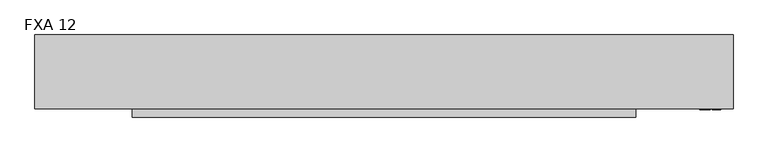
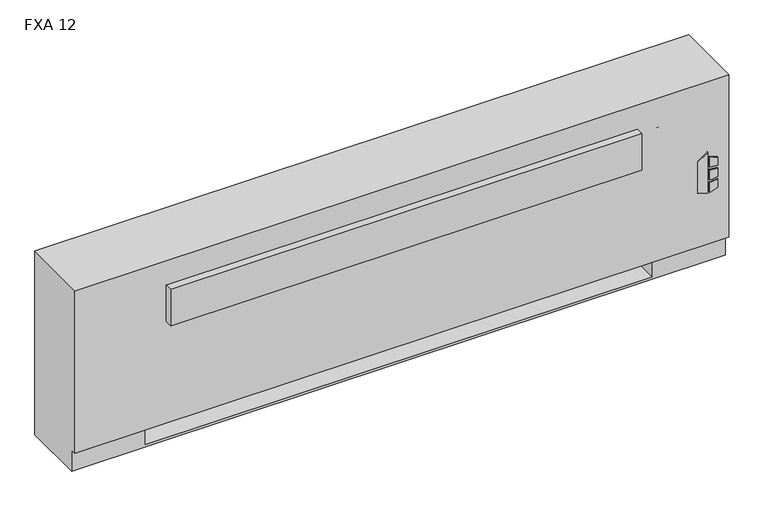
"""IFC4 building model written with IfcOpenShell, lengths in millimetres: proxy geometry, Vertical_Fan_Coil_Unit_-_FXA_-_IEC_-_2-Pipe_FS-FR_RH_2022 : FXA 12."""

from ifc_helpers import new_model, si_unit, point, frame, frame_2d, origin, place, context, project, spatial, polyline, circle_curve, trimmed, segment, composite_curve, outline, extrude, source, transform, mapped, element, save
from ifc_brep_helpers import plane_surface, revolved_surface, advanced_brep


def fxa_12_c79f4add(model_context):
    return source(origin(), model_context, "Body", "SolidModel", [
        extrude(outline(polyline([(263.9480703, 1128.7868862), (254.0, 1160.9602728), (396.1709244, 1160.9602728), (373.1489183, 1128.7868862), (263.9480703, 1128.7868862)])), frame((0.0, 12.7, 0.0), z_axis=(0.0, 1.0, 0.0), x_axis=(0.0, 0.0, 1.0)), (0.0, 0.0, 1.0), 3.175),
        extrude(outline(polyline([(342.9473557, 1167.7186058), (339.7449632, 1193.8), (368.9738042, 1193.8), (377.0382193, 1167.7186058), (342.9473557, 1167.7186058)])), frame((0.0, 12.7, 0.0), z_axis=(0.0, 1.0, 0.0), x_axis=(0.0, 0.0, 1.0)), (0.0, 0.0, 1.0), 3.175),
        extrude(outline(polyline([(291.0838288, 1193.8), (287.4183279, 1167.7186058), (254.0, 1167.7186058), (262.6342372, 1193.8), (291.0838288, 1193.8)])), frame((0.0, 12.7, 0.0), z_axis=(0.0, 1.0, 0.0), x_axis=(0.0, 0.0, 1.0)), (0.0, 0.0, 1.0), 3.175),
        extrude(outline(polyline([(330.3989903, 1193.8), (332.6808166, 1167.7186058), (296.7432681, 1167.7186058), (299.4845331, 1193.8), (330.3989903, 1193.8)])), frame((0.0, 12.7, 0.0), z_axis=(0.0, 1.0, 0.0), x_axis=(0.0, 0.0, 1.0)), (0.0, 0.0, 1.0), 3.175),
        extrude(outline(polyline([(-806.45, 81.534), (-806.45, 223.266), (-685.8, 223.266), (-685.8, 81.534), (-806.45, 81.534)])), frame((0.0, 0.0, 327.025), z_axis=(0.0, 0.0, 1.0), x_axis=(1.0, 0.0, 0.0)), (0.0, 0.0, 1.0), 260.35),
        extrude(outline(composite_curve([segment(trimmed(circle_curve(frame_2d((1054.1, 130.175)), 9.525), [point((1044.575, 130.175))], [point((1063.625, 130.175))], False, "CARTESIAN"), True, "CONTINUOUS"), segment(trimmed(circle_curve(frame_2d((1054.1, 130.175)), 9.525), [point((1063.625, 130.175))], [point((1044.575, 130.175))], False, "CARTESIAN"), True, "CONTINUOUS")], self_intersect=False)), frame((0.0, 0.0, 101.6), z_axis=(0.0, 0.0, 1.0), x_axis=(1.0, 0.0, 0.0)), (0.0, 0.0, 1.0), 25.4),
        extrude(outline(polyline([(1155.7, 196.85), (1155.7, 63.5), (990.6, 63.5), (990.6, 196.85), (1155.7, 196.85)])), frame((0.0, 0.0, 127.0), z_axis=(0.0, 0.0, 1.0), x_axis=(1.0, 0.0, 0.0)), (0.0, 0.0, 1.0), 50.8),
        extrude(outline(polyline([(930.275, -9.525), (-625.475, -9.525), (-625.475, 15.875), (930.275, 15.875), (930.275, -9.525)])), frame((0.0, 0.0, 428.625), z_axis=(0.0, 0.0, 1.0), x_axis=(1.0, 0.0, 0.0)), (0.0, 0.0, 1.0), 127.0),
        extrude(outline(composite_curve([segment(trimmed(circle_curve(frame_2d((93.1926, 485.5972)), 7.9375), [point((93.1926, 493.5347))], [point((93.1926, 477.6597))], False, "CARTESIAN"), True, "CONTINUOUS"), segment(trimmed(circle_curve(frame_2d((93.1926, 485.5972)), 7.9375), [point((93.1926, 477.6597))], [point((93.1926, 493.5347))], False, "CARTESIAN"), True, "CONTINUOUS")], self_intersect=False)), frame((990.6, 0.0, 0.0), z_axis=(1.0, 0.0, 0.0), x_axis=(0.0, 1.0, 0.0)), (0.0, 0.0, 1.0), 50.8),
        extrude(outline(composite_curve([segment(trimmed(circle_curve(frame_2d((141.3002, 458.9526)), 7.9375), [point((141.3002, 466.8901))], [point((141.3002, 451.0151))], False, "CARTESIAN"), True, "CONTINUOUS"), segment(trimmed(circle_curve(frame_2d((141.3002, 458.9526)), 7.9375), [point((141.3002, 451.0151))], [point((141.3002, 466.8901))], False, "CARTESIAN"), True, "CONTINUOUS")], self_intersect=False)), frame((990.6, 0.0, 0.0), z_axis=(1.0, 0.0, 0.0), x_axis=(0.0, 1.0, 0.0)), (0.0, 0.0, 1.0), 50.8),
        advanced_brep(
        [(1231.9, 244.475, 641.35), (-927.1, 244.475, 641.35), (-927.1, 15.875, 641.35), (1231.9, 15.875, 641.35), (-927.1, 244.475, 0.0), (1231.9, 244.475, 0.0), (1231.9, 34.925, 0.0), (-927.1, 34.925, 0.0), (990.6, 244.475, 73.025), (1219.2, 244.475, 73.025), (1219.2, 244.475, 628.65), (990.6, 244.475, 628.65), (990.6, 244.475, 414.8650565), (1019.175, 244.475, 414.8650565), (1019.175, 244.475, 385.2349435), (990.6, 244.475, 385.2349435), (990.6, 244.475, 287.3375), (1019.175, 244.475, 287.3375), (1019.175, 244.475, 258.7625), (990.6, 244.475, 258.7625), (990.6, 244.475, 141.2875), (1019.175, 244.475, 141.2875), (1019.175, 244.475, 112.7125), (990.6, 244.475, 112.7125), (-685.8, 244.475, 628.65), (-914.4, 244.475, 628.65), (-914.4, 244.475, 73.025), (-685.8, 244.475, 73.025), (-685.8, 244.475, 112.7125), (-714.375, 244.475, 112.7125), (-714.375, 244.475, 141.2875), (-685.8, 244.475, 141.2875), (-685.8, 244.475, 258.7625), (-714.375, 244.475, 258.7625), (-714.375, 244.475, 287.3375), (-685.8, 244.475, 287.3375), (-685.8, 244.475, 385.2349435), (-714.375, 244.475, 385.2349435), (-714.375, 244.475, 414.8650565), (-685.8, 244.475, 414.8650565), (1008.8626, 244.475, 127.0), (997.7374, 244.475, 127.0), (1008.8626, 244.475, 400.05), (997.7374, 244.475, 400.05), (1008.8626, 244.475, 273.05), (997.7374, 244.475, 273.05), (-692.9374, 244.475, 127.0), (-704.0626, 244.475, 127.0), (-692.9374, 244.475, 273.05), (-704.0626, 244.475, 273.05), (-692.9374, 244.475, 400.05), (-704.0626, 244.475, 400.05), (-927.1, 34.925, 73.025), (-927.1, 15.875, 73.025), (1231.9, 15.875, 73.025), (1231.9, 34.925, 73.025), (-685.8, 34.925, 73.025), (-685.8, 219.075, 73.025), (990.6, 219.075, 73.025), (990.6, 34.925, 73.025), (990.6, 34.925, 6.35), (-685.8, 34.925, 6.35), (990.6, 41.275, 628.65), (1219.2, 41.275, 628.65), (1219.2, 41.275, 73.025), (990.6, 41.275, 73.025), (-685.8, 41.275, 628.65), (-685.8, 41.275, 73.025), (-914.4, 41.275, 73.025), (-914.4, 41.275, 628.65), (990.6, 219.075, 73.025), (990.6, 238.125, 112.7125), (990.6, 238.125, 141.2875), (990.6, 238.125, 258.7625), (990.6, 238.125, 287.3375), (990.6, 238.125, 385.2349435), (990.6, 238.125, 414.8650565), (-685.8, 219.075, 73.025), (-685.8, 238.125, 414.8650565), (-685.8, 238.125, 385.2349435), (-685.8, 238.125, 287.3375), (-685.8, 238.125, 258.7625), (-685.8, 238.125, 141.2875), (-685.8, 238.125, 112.7125), (-685.8, 219.075, 6.35), (990.6, 219.075, 6.35), (1019.175, 238.125, 112.7125), (1019.175, 238.125, 141.2875), (997.7374, 238.125, 127.0), (1008.8626, 238.125, 127.0), (1019.175, 238.125, 258.7625), (1019.175, 238.125, 287.3375), (997.7374, 238.125, 273.05), (1008.8626, 238.125, 273.05), (1019.175, 238.125, 385.2349435), (1019.175, 238.125, 414.8650565), (997.7374, 238.125, 400.05), (1008.8626, 238.125, 400.05), (-714.375, 238.125, 141.2875), (-714.375, 238.125, 112.7125), (-704.0626, 238.125, 127.0), (-692.9374, 238.125, 127.0), (-714.375, 238.125, 287.3375), (-714.375, 238.125, 258.7625), (-704.0626, 238.125, 273.05), (-692.9374, 238.125, 273.05), (-714.375, 238.125, 414.8650565), (-714.375, 238.125, 385.2349435), (-704.0626, 238.125, 400.05), (-692.9374, 238.125, 400.05)],
        [
            (0, 1),
            (1, 2),
            (2, 3),
            (3, 0),
            (4, 5),
            (5, 6),
            (6, 7),
            (7, 4),
            (0, 5),
            (4, 1),
            (8, 9),
            (9, 10),
            (10, 11),
            (11, 12),
            (12, 13),
            (13, 14),
            (14, 15),
            (15, 16),
            (16, 17),
            (17, 18),
            (18, 19),
            (19, 20),
            (20, 21),
            (21, 22),
            (22, 23),
            (23, 8),
            (24, 25),
            (25, 26),
            (26, 27),
            (27, 28),
            (28, 29),
            (29, 30),
            (30, 31),
            (31, 32),
            (32, 33),
            (33, 34),
            (34, 35),
            (35, 36),
            (36, 37),
            (37, 38),
            (38, 39),
            (39, 24),
            (40, 41, circle_curve(frame((1003.3, 244.475, 127.0), z_axis=(0.0, -1.0, 0.0), x_axis=(-1.0, 0.0, 0.0)), 5.5626)),
            (41, 40, circle_curve(frame((1003.3, 244.475, 127.0), z_axis=(0.0, -1.0, 0.0), x_axis=(-1.0, 0.0, 0.0)), 5.5626)),
            (42, 43, circle_curve(frame((1003.3, 244.475, 400.05), z_axis=(0.0, -1.0, 0.0), x_axis=(-1.0, 0.0, 0.0)), 5.5626)),
            (43, 42, circle_curve(frame((1003.3, 244.475, 400.05), z_axis=(0.0, -1.0, 0.0), x_axis=(-1.0, 0.0, 0.0)), 5.5626)),
            (44, 45, circle_curve(frame((1003.3, 244.475, 273.05), z_axis=(0.0, -1.0, 0.0), x_axis=(-1.0, 0.0, 0.0)), 5.5626)),
            (45, 44, circle_curve(frame((1003.3, 244.475, 273.05), z_axis=(0.0, -1.0, 0.0), x_axis=(-1.0, 0.0, 0.0)), 5.5626)),
            (46, 47, circle_curve(frame((-698.5, 244.475, 127.0), z_axis=(0.0, -1.0, 0.0), x_axis=(-1.0, 0.0, 0.0)), 5.5626)),
            (47, 46, circle_curve(frame((-698.5, 244.475, 127.0), z_axis=(0.0, -1.0, 0.0), x_axis=(-1.0, 0.0, 0.0)), 5.5626)),
            (48, 49, circle_curve(frame((-698.5, 244.475, 273.05), z_axis=(0.0, -1.0, 0.0), x_axis=(-1.0, 0.0, 0.0)), 5.5626)),
            (49, 48, circle_curve(frame((-698.5, 244.475, 273.05), z_axis=(0.0, -1.0, 0.0), x_axis=(-1.0, 0.0, 0.0)), 5.5626)),
            (50, 51, circle_curve(frame((-698.5, 244.475, 400.05), z_axis=(0.0, -1.0, 0.0), x_axis=(-1.0, 0.0, 0.0)), 5.5626)),
            (51, 50, circle_curve(frame((-698.5, 244.475, 400.05), z_axis=(0.0, -1.0, 0.0), x_axis=(-1.0, 0.0, 0.0)), 5.5626)),
            (7, 52),
            (52, 53),
            (53, 2),
            (53, 54),
            (54, 3),
            (54, 55),
            (55, 6),
            (52, 56),
            (56, 57),
            (57, 58),
            (58, 59),
            (59, 55),
            (59, 60),
            (60, 61),
            (61, 56),
            (62, 63),
            (63, 64),
            (64, 65),
            (65, 62),
            (66, 67),
            (67, 68),
            (68, 69),
            (69, 66),
            (65, 70),
            (70, 8),
            (23, 71),
            (71, 72),
            (72, 20),
            (19, 73),
            (73, 74),
            (74, 16),
            (15, 75),
            (75, 76),
            (76, 12),
            (11, 62),
            (64, 9),
            (63, 10),
            (69, 25),
            (24, 66),
            (68, 26),
            (67, 77),
            (77, 27),
            (39, 78),
            (78, 79),
            (79, 36),
            (35, 80),
            (80, 81),
            (81, 32),
            (31, 82),
            (82, 83),
            (83, 28),
            (57, 84),
            (84, 85),
            (85, 58),
            (85, 60),
            (84, 61),
            (71, 86),
            (86, 87),
            (87, 72),
            (88, 89, circle_curve(frame((1003.3, 238.125, 127.0), z_axis=(0.0, 1.0, 0.0), x_axis=(-1.0, 0.0, 0.0)), 5.5626)),
            (89, 88, circle_curve(frame((1003.3, 238.125, 127.0), z_axis=(0.0, 1.0, 0.0), x_axis=(-1.0, 0.0, 0.0)), 5.5626)),
            (73, 90),
            (90, 91),
            (91, 74),
            (92, 93, circle_curve(frame((1003.3, 238.125, 273.05), z_axis=(0.0, 1.0, 0.0), x_axis=(-1.0, 0.0, 0.0)), 5.5626)),
            (93, 92, circle_curve(frame((1003.3, 238.125, 273.05), z_axis=(0.0, 1.0, 0.0), x_axis=(-1.0, 0.0, 0.0)), 5.5626)),
            (75, 94),
            (94, 95),
            (95, 76),
            (96, 97, circle_curve(frame((1003.3, 238.125, 400.05), z_axis=(0.0, 1.0, 0.0), x_axis=(-1.0, 0.0, 0.0)), 5.5626)),
            (97, 96, circle_curve(frame((1003.3, 238.125, 400.05), z_axis=(0.0, 1.0, 0.0), x_axis=(-1.0, 0.0, 0.0)), 5.5626)),
            (98, 99),
            (99, 83),
            (82, 98),
            (100, 101, circle_curve(frame((-698.5, 238.125, 127.0), z_axis=(0.0, 1.0, 0.0), x_axis=(-1.0, 0.0, 0.0)), 5.5626)),
            (101, 100, circle_curve(frame((-698.5, 238.125, 127.0), z_axis=(0.0, 1.0, 0.0), x_axis=(-1.0, 0.0, 0.0)), 5.5626)),
            (102, 103),
            (103, 81),
            (80, 102),
            (104, 105, circle_curve(frame((-698.5, 238.125, 273.05), z_axis=(0.0, 1.0, 0.0), x_axis=(-1.0, 0.0, 0.0)), 5.5626)),
            (105, 104, circle_curve(frame((-698.5, 238.125, 273.05), z_axis=(0.0, 1.0, 0.0), x_axis=(-1.0, 0.0, 0.0)), 5.5626)),
            (106, 107),
            (107, 79),
            (78, 106),
            (108, 109, circle_curve(frame((-698.5, 238.125, 400.05), z_axis=(0.0, 1.0, 0.0), x_axis=(-1.0, 0.0, 0.0)), 5.5626)),
            (109, 108, circle_curve(frame((-698.5, 238.125, 400.05), z_axis=(0.0, 1.0, 0.0), x_axis=(-1.0, 0.0, 0.0)), 5.5626)),
            (87, 21),
            (86, 22),
            (91, 17),
            (90, 18),
            (95, 13),
            (94, 14),
            (30, 98),
            (99, 29),
            (34, 102),
            (103, 33),
            (38, 106),
            (107, 37),
            (88, 41),
            (40, 89),
            (96, 43),
            (42, 97),
            (92, 45),
            (44, 93),
            (100, 47),
            (46, 101),
            (104, 49),
            (48, 105),
            (108, 51),
            (50, 109),
        ],
        [
            plane_surface(frame((-927.1, 244.475, 641.35), z_axis=(0.0, 0.0, 1.0), x_axis=(-1.0, 0.0, 0.0))),
            plane_surface(frame((-927.1, 244.475, 0.0), z_axis=(0.0, 0.0, -1.0), x_axis=(1.0, 0.0, 0.0))),
            plane_surface(frame((1231.9, 244.475, 641.35), z_axis=(0.0, 1.0, 0.0), x_axis=(0.0, 0.0, -1.0))),
            plane_surface(frame((-927.1, 244.475, 641.35), z_axis=(-1.0, 0.0, 0.0), x_axis=(0.0, 0.0, -1.0))),
            plane_surface(frame((-927.1, 15.875, 641.35), z_axis=(0.0, -1.0, 0.0), x_axis=(0.0, 0.0, -1.0))),
            plane_surface(frame((1231.9, 15.875, 641.35), z_axis=(1.0, 0.0, 0.0), x_axis=(0.0, 0.0, -1.0))),
            plane_surface(frame((-927.1, 15.875, 73.025), z_axis=(0.0, 0.0, -1.0), x_axis=(1.0, 0.0, 0.0))),
            plane_surface(frame((-927.1, 34.925, 73.025), z_axis=(0.0, -1.0, 0.0), x_axis=(1.0, 0.0, 0.0))),
            plane_surface(frame((990.6, 41.275, 628.65), z_axis=(0.0, 1.0, 0.0), x_axis=(0.0, 0.0, -1.0))),
            plane_surface(frame((990.6, 41.275, 628.65), z_axis=(1.0, 0.0, 0.0), x_axis=(0.0, 1.0, 0.0))),
            plane_surface(frame((990.6, 41.275, 73.025), z_axis=(0.0, 0.0, 1.0), x_axis=(0.0, 1.0, 0.0))),
            plane_surface(frame((1219.2, 41.275, 73.025), z_axis=(-1.0, 0.0, 0.0), x_axis=(0.0, 1.0, 0.0))),
            plane_surface(frame((1219.2, 41.275, 628.65), z_axis=(0.0, 0.0, -1.0), x_axis=(0.0, 1.0, 0.0))),
            plane_surface(frame((-685.8, 41.275, 628.65), z_axis=(0.0, 0.0, -1.0), x_axis=(0.0, 1.0, 0.0))),
            plane_surface(frame((-914.4, 41.275, 628.65), z_axis=(1.0, 0.0, 0.0), x_axis=(0.0, 1.0, 0.0))),
            plane_surface(frame((-914.4, 41.275, 73.025), z_axis=(0.0, 0.0, 1.0), x_axis=(0.0, 1.0, 0.0))),
            plane_surface(frame((-685.8, 41.275, 73.025), z_axis=(-1.0, 0.0, 0.0), x_axis=(0.0, 1.0, 0.0))),
            plane_surface(frame((990.6, 219.075, 73.025), z_axis=(0.0, -1.0, 0.0), x_axis=(0.0, 0.0, -1.0))),
            plane_surface(frame((990.6, 219.075, 73.025), z_axis=(-1.0, 0.0, 0.0), x_axis=(0.0, -1.0, 0.0))),
            plane_surface(frame((990.6, 219.075, 6.35), z_axis=(0.0, 0.0, 1.0), x_axis=(0.0, -1.0, 0.0))),
            plane_surface(frame((-685.8, 219.075, 6.35), z_axis=(1.0, 0.0, 0.0), x_axis=(0.0, -1.0, 0.0))),
            plane_surface(frame((1019.175, 238.125, 141.2875), z_axis=(0.0, -1.0, 0.0), x_axis=(-1.0, 0.0, 0.0))),
            plane_surface(frame((990.6, 244.475, 141.2875), z_axis=(0.0, 0.0, 1.0), x_axis=(0.0, -1.0, 0.0))),
            plane_surface(frame((1019.175, 244.475, 141.2875), z_axis=(1.0, 0.0, 0.0), x_axis=(0.0, -1.0, 0.0))),
            plane_surface(frame((1019.175, 244.475, 112.7125), z_axis=(0.0, 0.0, -1.0), x_axis=(0.0, -1.0, 0.0))),
            plane_surface(frame((990.6, 244.475, 287.3375), z_axis=(0.0, 0.0, 1.0), x_axis=(0.0, -1.0, 0.0))),
            plane_surface(frame((1019.175, 244.475, 287.3375), z_axis=(1.0, 0.0, 0.0), x_axis=(0.0, -1.0, 0.0))),
            plane_surface(frame((1019.175, 244.475, 258.7625), z_axis=(0.0, 0.0, -1.0), x_axis=(0.0, -1.0, 0.0))),
            plane_surface(frame((990.6, 244.475, 414.8650565), z_axis=(0.0, 0.0, 1.0), x_axis=(0.0, -1.0, 0.0))),
            plane_surface(frame((1019.175, 244.475, 414.8650565), z_axis=(1.0, 0.0, 0.0), x_axis=(0.0, -1.0, 0.0))),
            plane_surface(frame((1019.175, 244.475, 385.2349435), z_axis=(0.0, 0.0, -1.0), x_axis=(0.0, -1.0, 0.0))),
            plane_surface(frame((-714.375, 244.475, 141.2875), z_axis=(0.0, 0.0, 1.0), x_axis=(0.0, -1.0, 0.0))),
            plane_surface(frame((-685.8, 244.475, 112.7125), z_axis=(0.0, 0.0, -1.0), x_axis=(0.0, -1.0, 0.0))),
            plane_surface(frame((-714.375, 244.475, 112.7125), z_axis=(-1.0, 0.0, 0.0), x_axis=(0.0, -1.0, 0.0))),
            plane_surface(frame((-714.375, 244.475, 287.3375), z_axis=(0.0, 0.0, 1.0), x_axis=(0.0, -1.0, 0.0))),
            plane_surface(frame((-685.8, 244.475, 258.7625), z_axis=(0.0, 0.0, -1.0), x_axis=(0.0, -1.0, 0.0))),
            plane_surface(frame((-714.375, 244.475, 258.7625), z_axis=(-1.0, 0.0, 0.0), x_axis=(0.0, -1.0, 0.0))),
            plane_surface(frame((-714.375, 244.475, 414.8650565), z_axis=(0.0, 0.0, 1.0), x_axis=(0.0, -1.0, 0.0))),
            plane_surface(frame((-685.8, 244.475, 385.2349435), z_axis=(0.0, 0.0, -1.0), x_axis=(0.0, -1.0, 0.0))),
            plane_surface(frame((-714.375, 244.475, 385.2349435), z_axis=(-1.0, 0.0, 0.0), x_axis=(0.0, -1.0, 0.0))),
            revolved_surface(polyline([(997.7374, 238.125, 127.0), (997.7374, 244.475, 127.0)]), (1003.3, 244.475, 127.0), (0.0, -1.0, 0.0)),
            revolved_surface(polyline([(997.7374, 238.125, 400.05), (997.7374, 244.475, 400.05)]), (1003.3, 244.475, 400.05), (0.0, -1.0, 0.0)),
            revolved_surface(polyline([(997.7374, 238.125, 273.05), (997.7374, 244.475, 273.05)]), (1003.3, 244.475, 273.05), (0.0, -1.0, 0.0)),
            revolved_surface(polyline([(-704.0626, 238.125, 127.0), (-704.0626, 244.475, 127.0)]), (-698.5, 244.475, 127.0), (0.0, -1.0, 0.0)),
            revolved_surface(polyline([(-704.0626, 238.125, 273.05), (-704.0626, 244.475, 273.05)]), (-698.5, 244.475, 273.05), (0.0, -1.0, 0.0)),
            revolved_surface(polyline([(-704.0626, 238.125, 400.05), (-704.0626, 244.475, 400.05)]), (-698.5, 244.475, 400.05), (0.0, -1.0, 0.0)),
        ],
        [
            (0, [[1, 2, 3, 4]]),
            (1, [[5, 6, 7, 8]]),
            (2, [[-1, 9, -5, 10], [11, 12, 13, 14, 15, 16, 17, 18, 19, 20, 21, 22, 23, 24, 25, 26], [27, 28, 29, 30, 31, 32, 33, 34, 35, 36, 37, 38, 39, 40, 41, 42], [43, 44], [45, 46], [47, 48], [49, 50], [51, 52], [53, 54]]),
            (3, [[-2, -10, -8, 55, 56, 57]]),
            (4, [[-3, -57, 58, 59]]),
            (5, [[-4, -59, 60, 61, -6, -9]]),
            (6, [[-56, 62, 63, 64, 65, 66, -60, -58]]),
            (7, [[-7, -61, -66, 67, 68, 69, -62, -55]]),
            (8, [[70, 71, 72, 73]]),
            (8, [[74, 75, 76, 77]]),
            (9, [[-73, 78, 79, -26, 80, 81, 82, -22, 83, 84, 85, -18, 86, 87, 88, -14, 89]]),
            (10, [[-72, 90, -11, -79, -78]]),
            (11, [[-71, 91, -12, -90]]),
            (12, [[-70, -89, -13, -91]]),
            (13, [[-77, 92, -27, 93]]),
            (14, [[-76, 94, -28, -92]]),
            (15, [[-75, 95, 96, -29, -94]]),
            (16, [[-74, -93, -42, 97, 98, 99, -38, 100, 101, 102, -34, 103, 104, 105, -30, -96, -95]]),
            (17, [[-64, 106, 107, 108]]),
            (18, [[-108, 109, -67, -65]]),
            (19, [[-107, 110, -68, -109]]),
            (20, [[-106, -63, -69, -110]]),
            (21, [[111, 112, 113, -81], [114, 115]]),
            (21, [[116, 117, 118, -84], [119, 120]]),
            (21, [[121, 122, 123, -87], [124, 125]]),
            (21, [[126, 127, -104, 128], [129, 130]]),
            (21, [[131, 132, -101, 133], [134, 135]]),
            (21, [[136, 137, -98, 138], [139, 140]]),
            (22, [[-113, 141, -23, -82]]),
            (23, [[-112, 142, -24, -141]]),
            (24, [[-111, -80, -25, -142]]),
            (25, [[-118, 143, -19, -85]]),
            (26, [[-117, 144, -20, -143]]),
            (27, [[-116, -83, -21, -144]]),
            (28, [[-123, 145, -15, -88]]),
            (29, [[-122, 146, -16, -145]]),
            (30, [[-121, -86, -17, -146]]),
            (31, [[-128, -103, -33, 147]]),
            (32, [[-127, 148, -31, -105]]),
            (33, [[-126, -147, -32, -148]]),
            (34, [[-133, -100, -37, 149]]),
            (35, [[-132, 150, -35, -102]]),
            (36, [[-131, -149, -36, -150]]),
            (37, [[-138, -97, -41, 151]]),
            (38, [[-137, 152, -39, -99]]),
            (39, [[-136, -151, -40, -152]]),
            (40, [[153, -43, 154, -114]]),
            (40, [[-153, -115, -154, -44]]),
            (41, [[155, -45, 156, -124]]),
            (41, [[-155, -125, -156, -46]]),
            (42, [[157, -47, 158, -119]]),
            (42, [[-157, -120, -158, -48]]),
            (43, [[159, -49, 160, -129]]),
            (43, [[-159, -130, -160, -50]]),
            (44, [[161, -51, 162, -134]]),
            (44, [[-161, -135, -162, -52]]),
            (45, [[163, -53, 164, -139]]),
            (45, [[-163, -140, -164, -54]]),
        ],
    ),
    ])


if __name__ == "__main__":
    model = new_model("IFC4")
    model_context = context("Model", 3, world=origin())
    ifc_project = project(units=[si_unit("LENGTHUNIT", "METRE", prefix="MILLI")], contexts=[model_context])
    site = spatial("IfcSite", under=ifc_project)
    building = spatial("IfcBuilding", under=site)
    placement = place(None, origin())
    fxa_12_shape = fxa_12_c79f4add(model_context)
    element("IfcBuildingElementProxy", 1, Name="Vertical_Fan_Coil_Unit_-_FXA_-_IEC_-_2-Pipe_FS-FR_RH_2022 : FXA 12", ObjectType="Vertical_Fan_Coil_Unit_-_FXA_-_IEC_-_2-Pipe_FS-FR_RH_2022 : FXA 12", at=placement, inside=building, context=model_context, shape_type="MappedRepresentation", body=[
        mapped(fxa_12_shape, transform((0.0, 0.0, 0.0), x_axis=(1.0, 0.0, 0.0), y_axis=(0.0, 1.0, 0.0), z_axis=(0.0, 0.0, 1.0))),
    ])
    save(model, "model.ifc")
